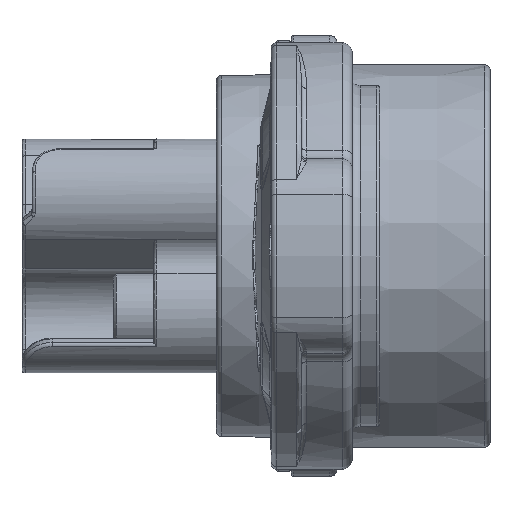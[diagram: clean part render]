
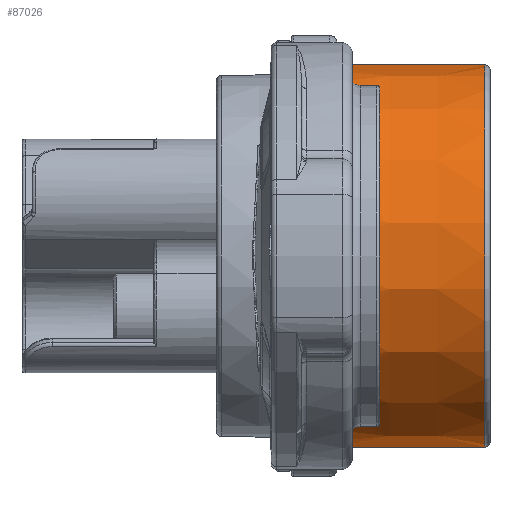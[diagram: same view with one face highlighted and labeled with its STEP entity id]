
A CAD part, front view. The second image highlights one B-rep face of the part: STEP entity #87026.
In plain terms, the highlighted conical face has half-angle 0.3 degrees and reference radius 18.95 mm.
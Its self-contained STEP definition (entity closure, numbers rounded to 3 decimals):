
#199 = VERTEX_POINT ( 'NONE', #21880 ) ;
#354 = DIRECTION ( 'NONE',  ( 1., 0., 0. ) ) ;
#419 = LINE ( 'NONE', #24806, #51595 ) ;
#664 = CARTESIAN_POINT ( 'NONE',  ( -15.1, 0., 18.95 ) ) ;
#1168 = CIRCLE ( 'NONE', #6332, 18.947 ) ;
#2835 = DIRECTION ( 'NONE',  ( 0., 0., 1. ) ) ;
#6332 = AXIS2_PLACEMENT_3D ( 'NONE', #95068, #54738, #87640 ) ;
#6582 = B_SPLINE_CURVE_WITH_KNOTS ( 'NONE', 3,
 ( #58967, #28074, #75383, #35532, #76934, #67954, #91303, #51465, #83321, #12134 ),
 .UNSPECIFIED., .F., .F.,
 ( 4, 2, 2, 2, 4 ),
 ( 0., 0.001, 0.001, 0.002, 0.003 ),
 .UNSPECIFIED. ) ;
#12134 = CARTESIAN_POINT ( 'NONE',  ( -14.603, -12.361, -14.36 ) ) ;
#15299 = ORIENTED_EDGE ( 'NONE', *, *, #94398, .T. ) ;
#19653 = VERTEX_POINT ( 'NONE', #63112 ) ;
#21880 = CARTESIAN_POINT ( 'NONE',  ( -14.603, -12.361, 14.36 ) ) ;
#22010 = DIRECTION ( 'NONE',  ( -1., 0., 0. ) ) ;
#23229 = EDGE_CURVE ( 'NONE', #35608, #83205, #419, .T. ) ;
#23767 = DIRECTION ( 'NONE',  ( 0., 0., 1. ) ) ;
#24715 = EDGE_LOOP ( 'NONE', ( #80821, #93760, #73954, #15299, #42123, #60997, #94893, #68500 ) ) ;
#24806 = CARTESIAN_POINT ( 'NONE',  ( -15.1, 0., -18.95 ) ) ;
#24922 = FACE_OUTER_BOUND ( 'NONE', #24715, .T. ) ;
#28074 = CARTESIAN_POINT ( 'NONE',  ( -14.603, -14.206, -12.54 ) ) ;
#30543 = CARTESIAN_POINT ( 'NONE',  ( -14.603, 0., 18.947 ) ) ;
#30833 = CARTESIAN_POINT ( 'NONE',  ( -14.713, -13.565, 13.231 ) ) ;
#31771 = CARTESIAN_POINT ( 'NONE',  ( -14.603, 0., 0. ) ) ;
#31872 = CARTESIAN_POINT ( 'NONE',  ( -15.1, 0., 0. ) ) ;
#33558 = DIRECTION ( 'NONE',  ( -1., 0., 0.005 ) ) ;
#35532 = CARTESIAN_POINT ( 'NONE',  ( -14.688, -13.728, -13.062 ) ) ;
#35608 = VERTEX_POINT ( 'NONE', #99578 ) ;
#35756 = AXIS2_PLACEMENT_3D ( 'NONE', #47484, #22010, #80420 ) ;
#36977 = EDGE_CURVE ( 'NONE', #68697, #83205, #48761, .T. ) ;
#39832 = CARTESIAN_POINT ( 'NONE',  ( -14.603, -14.206, 12.54 ) ) ;
#40266 = AXIS2_PLACEMENT_3D ( 'NONE', #62021, #354, #2835 ) ;
#40364 = CARTESIAN_POINT ( 'NONE',  ( -14.688, -13.729, 13.061 ) ) ;
#40976 = LINE ( 'NONE', #664, #97354 ) ;
#42123 = ORIENTED_EDGE ( 'NONE', *, *, #71789, .T. ) ;
#43781 = DIRECTION ( 'NONE',  ( -1., 0., -0.005 ) ) ;
#44672 = CARTESIAN_POINT ( 'NONE',  ( -14.603, -12.54, 14.206 ) ) ;
#44779 = CARTESIAN_POINT ( 'NONE',  ( -14.603, 0., -18.947 ) ) ;
#47484 = CARTESIAN_POINT ( 'NONE',  ( -0.497, 0., 0. ) ) ;
#48761 = CIRCLE ( 'NONE', #40266, 18.947 ) ;
#49369 = DIRECTION ( 'NONE',  ( 0., 0., -1. ) ) ;
#51465 = CARTESIAN_POINT ( 'NONE',  ( -14.632, -12.716, -14.049 ) ) ;
#51595 = VECTOR ( 'NONE', #43781, 1000. ) ;
#53067 = B_SPLINE_CURVE_WITH_KNOTS ( 'NONE', 3,
 ( #69140, #44672, #77072, #53172, #102000, #30833, #40364, #71212, #39832, #79683 ),
 .UNSPECIFIED., .F., .F.,
 ( 4, 2, 2, 2, 4 ),
 ( 0., 0.001, 0.001, 0.002, 0.003 ),
 .UNSPECIFIED. ) ;
#53172 = CARTESIAN_POINT ( 'NONE',  ( -14.688, -13.062, 13.728 ) ) ;
#54738 = DIRECTION ( 'NONE',  ( 1., 0., 0. ) ) ;
#58967 = CARTESIAN_POINT ( 'NONE',  ( -14.603, -14.36, -12.361 ) ) ;
#60997 = ORIENTED_EDGE ( 'NONE', *, *, #69100, .T. ) ;
#62021 = CARTESIAN_POINT ( 'NONE',  ( -14.603, 0., 0. ) ) ;
#63112 = CARTESIAN_POINT ( 'NONE',  ( -14.603, -14.36, 12.361 ) ) ;
#64715 = DIRECTION ( 'NONE',  ( 1., 0., 0. ) ) ;
#64986 = CONICAL_SURFACE ( 'NONE', #85315, 18.95, 0.005 ) ;
#66374 = DIRECTION ( 'NONE',  ( -1., 0., 0. ) ) ;
#67121 = EDGE_CURVE ( 'NONE', #88461, #199, #1168, .T. ) ;
#67776 = VERTEX_POINT ( 'NONE', #83475 ) ;
#67954 = CARTESIAN_POINT ( 'NONE',  ( -14.713, -13.231, -13.565 ) ) ;
#68500 = ORIENTED_EDGE ( 'NONE', *, *, #23229, .F. ) ;
#68589 = CARTESIAN_POINT ( 'NONE',  ( -14.603, -12.361, -14.36 ) ) ;
#68697 = VERTEX_POINT ( 'NONE', #68589 ) ;
#69100 = EDGE_CURVE ( 'NONE', #67776, #68697, #6582, .T. ) ;
#69140 = CARTESIAN_POINT ( 'NONE',  ( -14.603, -12.361, 14.36 ) ) ;
#71212 = CARTESIAN_POINT ( 'NONE',  ( -14.632, -14.049, 12.716 ) ) ;
#71789 = EDGE_CURVE ( 'NONE', #19653, #67776, #89976, .T. ) ;
#73954 = ORIENTED_EDGE ( 'NONE', *, *, #67121, .T. ) ;
#75383 = CARTESIAN_POINT ( 'NONE',  ( -14.632, -14.049, -12.716 ) ) ;
#76469 = CIRCLE ( 'NONE', #35756, 18.874 ) ;
#76934 = CARTESIAN_POINT ( 'NONE',  ( -14.713, -13.564, -13.232 ) ) ;
#77072 = CARTESIAN_POINT ( 'NONE',  ( -14.632, -12.716, 14.049 ) ) ;
#79683 = CARTESIAN_POINT ( 'NONE',  ( -14.603, -14.36, 12.361 ) ) ;
#80420 = DIRECTION ( 'NONE',  ( 0., 0., -1. ) ) ;
#80821 = ORIENTED_EDGE ( 'NONE', *, *, #103380, .T. ) ;
#83205 = VERTEX_POINT ( 'NONE', #44779 ) ;
#83321 = CARTESIAN_POINT ( 'NONE',  ( -14.603, -12.54, -14.206 ) ) ;
#83475 = CARTESIAN_POINT ( 'NONE',  ( -14.603, -14.36, -12.361 ) ) ;
#85315 = AXIS2_PLACEMENT_3D ( 'NONE', #31872, #66374, #49369 ) ;
#87026 = ADVANCED_FACE ( 'NONE', ( #24922 ), #64986, .T. ) ;
#87640 = DIRECTION ( 'NONE',  ( 0., 0., 1. ) ) ;
#88461 = VERTEX_POINT ( 'NONE', #30543 ) ;
#88956 = CARTESIAN_POINT ( 'NONE',  ( -0.497, 0., 18.874 ) ) ;
#89976 = CIRCLE ( 'NONE', #98227, 18.947 ) ;
#91303 = CARTESIAN_POINT ( 'NONE',  ( -14.688, -13.061, -13.729 ) ) ;
#93234 = EDGE_CURVE ( 'NONE', #98338, #88461, #40976, .T. ) ;
#93760 = ORIENTED_EDGE ( 'NONE', *, *, #93234, .T. ) ;
#94398 = EDGE_CURVE ( 'NONE', #199, #19653, #53067, .T. ) ;
#94893 = ORIENTED_EDGE ( 'NONE', *, *, #36977, .T. ) ;
#95068 = CARTESIAN_POINT ( 'NONE',  ( -14.603, 0., 0. ) ) ;
#97354 = VECTOR ( 'NONE', #33558, 1000. ) ;
#98227 = AXIS2_PLACEMENT_3D ( 'NONE', #31771, #64715, #23767 ) ;
#98338 = VERTEX_POINT ( 'NONE', #88956 ) ;
#99578 = CARTESIAN_POINT ( 'NONE',  ( -0.497, 0., -18.874 ) ) ;
#102000 = CARTESIAN_POINT ( 'NONE',  ( -14.713, -13.232, 13.564 ) ) ;
#103380 = EDGE_CURVE ( 'NONE', #35608, #98338, #76469, .T. ) ;
